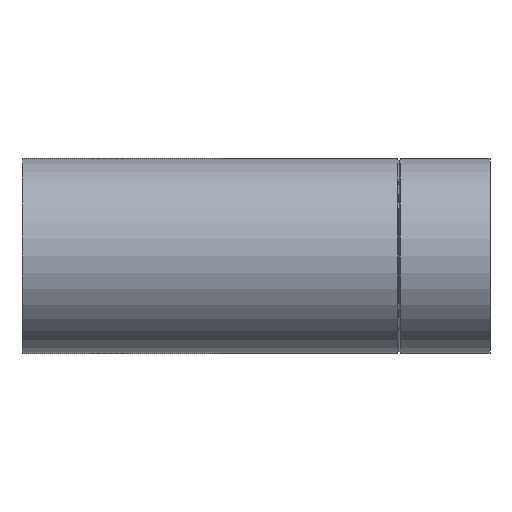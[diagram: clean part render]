
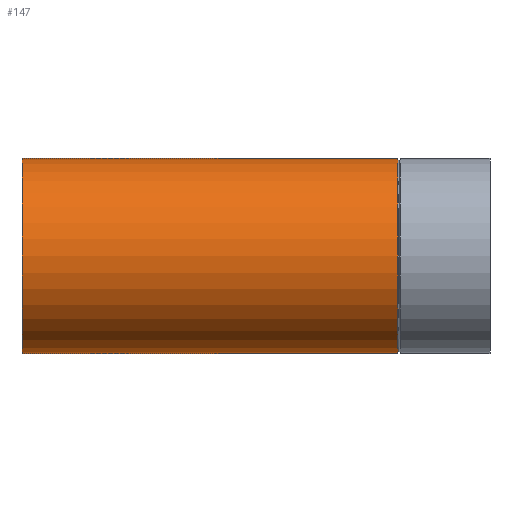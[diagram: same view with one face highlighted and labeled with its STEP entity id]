
A CAD part, left-side view. The second image highlights one B-rep face of the part: STEP entity #147.
In plain terms, the highlighted cylindrical face has radius 37.5 mm (diameter 75 mm), a full revolution.
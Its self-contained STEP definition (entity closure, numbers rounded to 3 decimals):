
#14=ELLIPSE('',#184,52.352,37.5);
#15=ELLIPSE('',#185,53.741,37.5);
#18=CYLINDRICAL_SURFACE('',#182,37.5);
#28=FACE_BOUND('',#54,.T.);
#29=FACE_BOUND('',#55,.T.);
#40=FACE_OUTER_BOUND('',#53,.T.);
#53=EDGE_LOOP('',(#110));
#54=EDGE_LOOP('',(#111,#112));
#55=EDGE_LOOP('',(#113));
#73=CIRCLE('',#181,37.5);
#74=CIRCLE('',#183,37.5);
#82=VERTEX_POINT('',#257);
#83=VERTEX_POINT('',#260);
#84=VERTEX_POINT('',#262);
#85=VERTEX_POINT('',#263);
#95=EDGE_CURVE('',#82,#82,#73,.T.);
#96=EDGE_CURVE('',#83,#83,#74,.T.);
#97=EDGE_CURVE('',#84,#85,#14,.T.);
#98=EDGE_CURVE('',#85,#84,#15,.T.);
#110=ORIENTED_EDGE('',*,*,#96,.T.);
#111=ORIENTED_EDGE('',*,*,#97,.T.);
#112=ORIENTED_EDGE('',*,*,#98,.T.);
#113=ORIENTED_EDGE('',*,*,#95,.T.);
#147=ADVANCED_FACE('',(#40,#28,#29),#18,.T.);
#181=AXIS2_PLACEMENT_3D('',#258,#213,#214);
#182=AXIS2_PLACEMENT_3D('',#259,#215,#216);
#183=AXIS2_PLACEMENT_3D('',#261,#217,#218);
#184=AXIS2_PLACEMENT_3D('',#264,#219,#220);
#185=AXIS2_PLACEMENT_3D('',#265,#221,#222);
#213=DIRECTION('center_axis',(0.,1.,0.));
#214=DIRECTION('ref_axis',(1.,0.,0.));
#215=DIRECTION('center_axis',(0.,1.,0.));
#216=DIRECTION('ref_axis',(1.,0.,0.));
#217=DIRECTION('center_axis',(0.,-1.,0.));
#218=DIRECTION('ref_axis',(1.,0.,0.));
#219=DIRECTION('center_axis',(-0.698,-0.716,0.));
#220=DIRECTION('ref_axis',(0.716,-0.698,0.));
#221=DIRECTION('center_axis',(-0.716,0.698,0.));
#222=DIRECTION('ref_axis',(-0.698,-0.716,0.));
#257=CARTESIAN_POINT('',(37.5,35.433,0.));
#258=CARTESIAN_POINT('Origin',(0.,35.433,0.));
#259=CARTESIAN_POINT('Origin',(0.,0.,0.));
#260=CARTESIAN_POINT('',(-37.5,180.,0.));
#261=CARTESIAN_POINT('Origin',(0.,180.,0.));
#262=CARTESIAN_POINT('',(0.,105.,-37.5));
#263=CARTESIAN_POINT('',(0.,105.,37.5));
#264=CARTESIAN_POINT('Origin',(0.,105.,0.));
#265=CARTESIAN_POINT('Origin',(0.,105.,0.));
